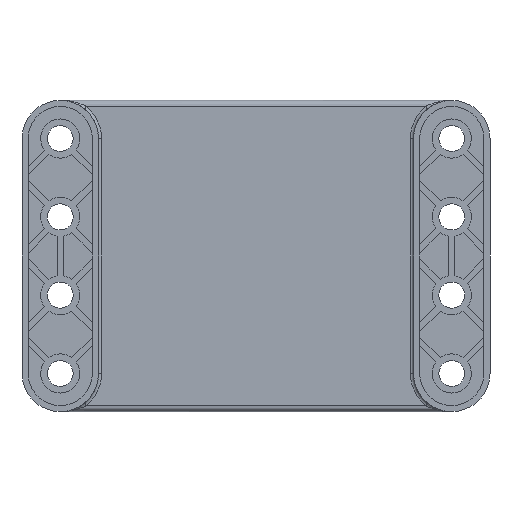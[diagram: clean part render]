
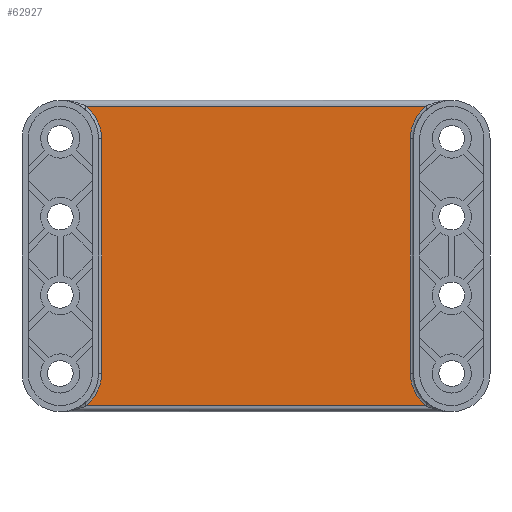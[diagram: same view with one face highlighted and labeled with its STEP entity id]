
A CAD part, front view. The second image highlights one B-rep face of the part: STEP entity #62927.
In plain terms, the highlighted planar face has unit normal (0, -1, 0).
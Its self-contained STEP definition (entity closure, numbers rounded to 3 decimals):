
#1034 = ORIENTED_EDGE ( 'NONE', *, *, #34797, .T. ) ;
#1173 = AXIS2_PLACEMENT_3D ( 'NONE', #47198, #24931, #73531 ) ;
#3083 = CARTESIAN_POINT ( 'NONE',  ( -31.75, -10.075, 24.25 ) ) ;
#5654 = EDGE_LOOP ( 'NONE', ( #40258, #6090, #1034, #85452, #80691, #72086, #32061, #19966 ) ) ;
#6090 = ORIENTED_EDGE ( 'NONE', *, *, #16263, .T. ) ;
#6662 = CARTESIAN_POINT ( 'NONE',  ( 27.525, -10.075, -24.25 ) ) ;
#6740 = CARTESIAN_POINT ( 'NONE',  ( -31.75, -10.075, -24.25 ) ) ;
#7182 = VECTOR ( 'NONE', #37067, 1000. ) ;
#7454 = AXIS2_PLACEMENT_3D ( 'NONE', #87749, #53262, #50240 ) ;
#9996 = DIRECTION ( 'NONE',  ( 0., 0., -1. ) ) ;
#11932 = FACE_OUTER_BOUND ( 'NONE', #5654, .T. ) ;
#12407 = CARTESIAN_POINT ( 'NONE',  ( 31.75, -10.075, -19.05 ) ) ;
#13305 = AXIS2_PLACEMENT_3D ( 'NONE', #60863, #18636, #87191 ) ;
#16263 = EDGE_CURVE ( 'NONE', #47333, #88342, #59668, .T. ) ;
#18356 = DIRECTION ( 'NONE',  ( 0., 0., 1. ) ) ;
#18636 = DIRECTION ( 'NONE',  ( 0., 1., 0. ) ) ;
#19202 = DIRECTION ( 'NONE',  ( 0., 0., -1. ) ) ;
#19966 = ORIENTED_EDGE ( 'NONE', *, *, #38025, .T. ) ;
#21406 = DIRECTION ( 'NONE',  ( 0., 0., -1. ) ) ;
#24836 = CIRCLE ( 'NONE', #13305, 6.7 ) ;
#24931 = DIRECTION ( 'NONE',  ( 0., 1., 0. ) ) ;
#25077 = DIRECTION ( 'NONE',  ( 0., 1., 0. ) ) ;
#27551 = LINE ( 'NONE', #6740, #61169 ) ;
#28204 = CARTESIAN_POINT ( 'NONE',  ( -27.525, -10.075, 24.25 ) ) ;
#28416 = EDGE_CURVE ( 'NONE', #62990, #74916, #79399, .T. ) ;
#28621 = CARTESIAN_POINT ( 'NONE',  ( -31.75, -10.075, -19.05 ) ) ;
#32061 = ORIENTED_EDGE ( 'NONE', *, *, #70572, .T. ) ;
#34797 = EDGE_CURVE ( 'NONE', #88342, #62990, #46133, .T. ) ;
#36528 = EDGE_CURVE ( 'NONE', #68082, #47333, #45157, .T. ) ;
#37067 = DIRECTION ( 'NONE',  ( -1., 0., 0. ) ) ;
#37447 = CARTESIAN_POINT ( 'NONE',  ( 25.05, -10.075, -19.05 ) ) ;
#38025 = EDGE_CURVE ( 'NONE', #45784, #68082, #39490, .T. ) ;
#39490 = CIRCLE ( 'NONE', #64124, 6.7 ) ;
#39567 = PLANE ( 'NONE',  #56568 ) ;
#40258 = ORIENTED_EDGE ( 'NONE', *, *, #36528, .T. ) ;
#40581 = CARTESIAN_POINT ( 'NONE',  ( 27.525, -10.075, 24.25 ) ) ;
#44423 = LINE ( 'NONE', #50346, #82929 ) ;
#44500 = EDGE_CURVE ( 'NONE', #74916, #84127, #44423, .T. ) ;
#45157 = LINE ( 'NONE', #37447, #84140 ) ;
#45784 = VERTEX_POINT ( 'NONE', #6662 ) ;
#46133 = LINE ( 'NONE', #3083, #7182 ) ;
#47121 = EDGE_CURVE ( 'NONE', #84127, #49905, #24836, .T. ) ;
#47198 = CARTESIAN_POINT ( 'NONE',  ( -31.75, -10.075, 19.05 ) ) ;
#47333 = VERTEX_POINT ( 'NONE', #77918 ) ;
#49905 = VERTEX_POINT ( 'NONE', #79303 ) ;
#50240 = DIRECTION ( 'NONE',  ( 0., 0., -1. ) ) ;
#50346 = CARTESIAN_POINT ( 'NONE',  ( -25.05, -10.075, -19.05 ) ) ;
#53262 = DIRECTION ( 'NONE',  ( 0., 1., 0. ) ) ;
#55463 = DIRECTION ( 'NONE',  ( 0., -1., 0. ) ) ;
#56568 = AXIS2_PLACEMENT_3D ( 'NONE', #28621, #55463, #21406 ) ;
#59636 = CARTESIAN_POINT ( 'NONE',  ( -25.05, -10.075, 19.05 ) ) ;
#59668 = CIRCLE ( 'NONE', #7454, 6.7 ) ;
#60863 = CARTESIAN_POINT ( 'NONE',  ( -31.75, -10.075, -19.05 ) ) ;
#61169 = VECTOR ( 'NONE', #82521, 1000. ) ;
#62927 = ADVANCED_FACE ( 'NONE', ( #11932 ), #39567, .T. ) ;
#62990 = VERTEX_POINT ( 'NONE', #28204 ) ;
#64124 = AXIS2_PLACEMENT_3D ( 'NONE', #12407, #25077, #19202 ) ;
#68082 = VERTEX_POINT ( 'NONE', #88530 ) ;
#70572 = EDGE_CURVE ( 'NONE', #49905, #45784, #27551, .T. ) ;
#72086 = ORIENTED_EDGE ( 'NONE', *, *, #47121, .T. ) ;
#73531 = DIRECTION ( 'NONE',  ( 0., 0., -1. ) ) ;
#74916 = VERTEX_POINT ( 'NONE', #59636 ) ;
#77918 = CARTESIAN_POINT ( 'NONE',  ( 25.05, -10.075, 19.05 ) ) ;
#79303 = CARTESIAN_POINT ( 'NONE',  ( -27.525, -10.075, -24.25 ) ) ;
#79399 = CIRCLE ( 'NONE', #1173, 6.7 ) ;
#80027 = CARTESIAN_POINT ( 'NONE',  ( -25.05, -10.075, -19.05 ) ) ;
#80691 = ORIENTED_EDGE ( 'NONE', *, *, #44500, .T. ) ;
#82521 = DIRECTION ( 'NONE',  ( 1., 0., 0. ) ) ;
#82929 = VECTOR ( 'NONE', #9996, 1000. ) ;
#84127 = VERTEX_POINT ( 'NONE', #80027 ) ;
#84140 = VECTOR ( 'NONE', #18356, 1000. ) ;
#85452 = ORIENTED_EDGE ( 'NONE', *, *, #28416, .T. ) ;
#87191 = DIRECTION ( 'NONE',  ( 0., 0., -1. ) ) ;
#87749 = CARTESIAN_POINT ( 'NONE',  ( 31.75, -10.075, 19.05 ) ) ;
#88342 = VERTEX_POINT ( 'NONE', #40581 ) ;
#88530 = CARTESIAN_POINT ( 'NONE',  ( 25.05, -10.075, -19.05 ) ) ;
